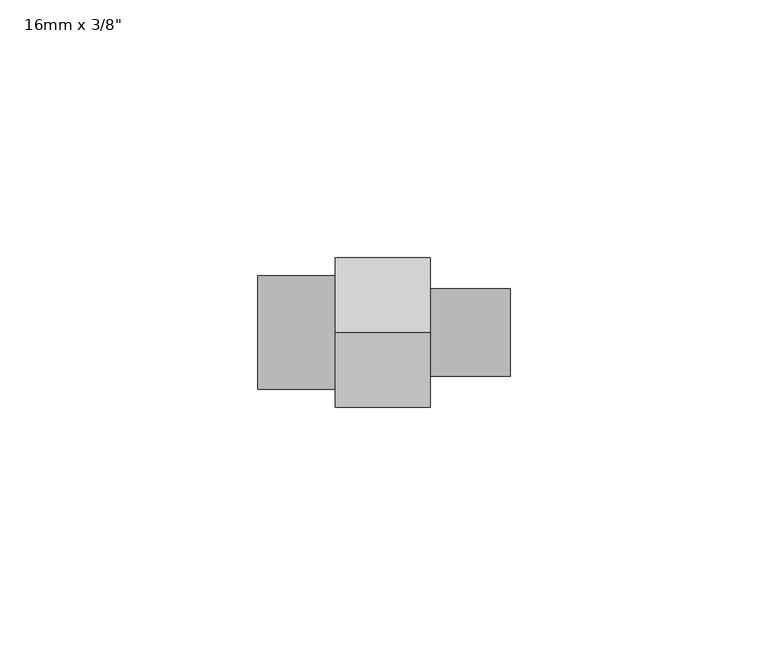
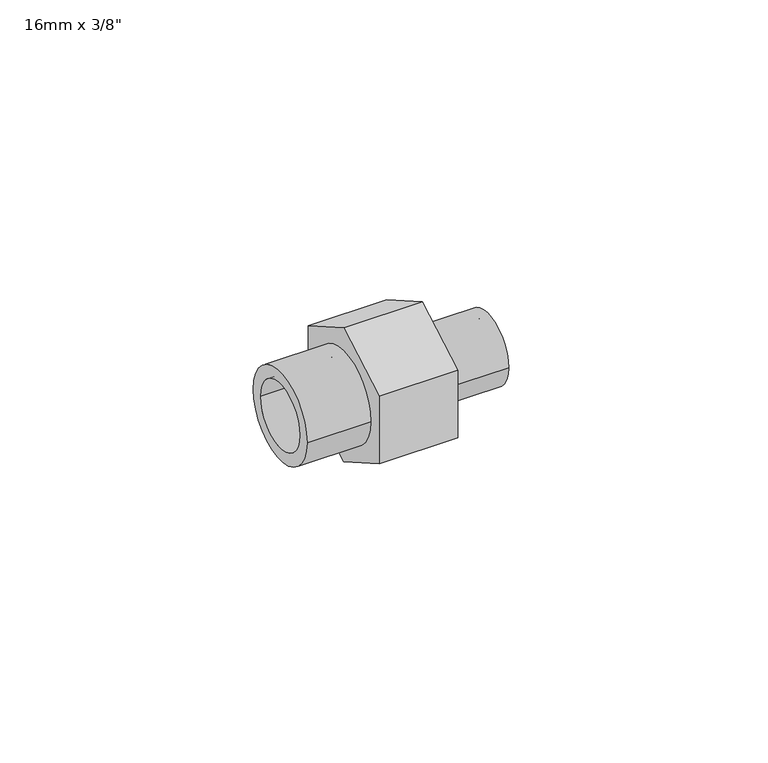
"""IFC4 building model written with IfcOpenShell, lengths in millimetres: pipe fitting geometry."""

from ifc_helpers import new_model, si_unit, point, frame, origin, origin_2d, place, context, project, spatial, polyline, circle_curve, trimmed, segment, composite_curve, outline, extrude, source, transform, mapped, element, save
from ifc_brep_helpers import plane_surface, cylinder_surface, revolved_surface, advanced_brep


def pipe_fitting_e1098114(model_context):
    return source(origin(), model_context, "Body", "SolidModel", [
        extrude(outline(composite_curve([segment(trimmed(circle_curve(origin_2d(), 11.0), [point((-11.0, 0.0))], [point((11.0, 0.0))], False, "CARTESIAN"), True, "CONTINUOUS"), segment(trimmed(circle_curve(origin_2d(), 11.0), [point((11.0, 0.0))], [point((-11.0, 0.0))], False, "CARTESIAN"), True, "CONTINUOUS")], self_intersect=False), holes=[composite_curve([segment(trimmed(circle_curve(origin_2d(), 8.0), [point((-8.0, 0.0))], [point((8.0, 0.0))], True, "CARTESIAN"), True, "CONTINUOUS"), segment(trimmed(circle_curve(origin_2d(), 8.0), [point((8.0, 0.0))], [point((-8.0, 0.0))], True, "CARTESIAN"), True, "CONTINUOUS")], self_intersect=False)]), frame((-7.5, 0.0, 0.0), z_axis=(1.0, 0.0, 0.0), x_axis=(0.0, 1.0, 0.0)), (0.0, 0.0, 1.0), 15.0),
        advanced_brep(
        [(41.5, -8.5, 0.0), (41.5, 8.5, 0.0), (41.5, 6.0, 0.0), (41.5, -6.0, 0.0), (26.0, 8.5, 0.0), (26.0, -8.5, 0.0), (7.5, 0.0, 16.7431578), (7.5, 14.5, 8.3715789), (7.5, 14.5, -8.3715789), (7.5, 0.0, -16.7431578), (7.5, -14.5, -8.3715789), (7.5, -14.5, 8.3715789), (7.5, -6.0, 0.0), (7.5, 6.0, 0.0), (26.0, 0.0, 16.7431578), (26.0, -14.5, 8.3715789), (26.0, -14.5, -8.3715789), (26.0, 0.0, -16.7431578), (26.0, 14.5, -8.3715789), (26.0, 14.5, 8.3715789)],
        [
            (0, 1, circle_curve(frame((41.5, 0.0, 0.0), z_axis=(1.0, 0.0, 0.0), x_axis=(0.0, 1.0, 0.0)), 8.5)),
            (1, 0, circle_curve(frame((41.5, 0.0, 0.0), z_axis=(1.0, 0.0, 0.0), x_axis=(0.0, 1.0, 0.0)), 8.5)),
            (2, 3, circle_curve(frame((41.5, 0.0, 0.0), z_axis=(-1.0, 0.0, 0.0), x_axis=(0.0, -1.0, 0.0)), 6.0)),
            (3, 2, circle_curve(frame((41.5, 0.0, 0.0), z_axis=(-1.0, 0.0, 0.0), x_axis=(0.0, -1.0, 0.0)), 6.0)),
            (1, 4),
            (4, 5, circle_curve(frame((26.0, 0.0, 0.0), z_axis=(1.0, 0.0, 0.0), x_axis=(0.0, 1.0, 0.0)), 8.5)),
            (5, 0),
            (5, 4, circle_curve(frame((26.0, 0.0, 0.0), z_axis=(1.0, 0.0, 0.0), x_axis=(0.0, 1.0, 0.0)), 8.5)),
            (6, 7),
            (7, 8),
            (8, 9),
            (9, 10),
            (10, 11),
            (11, 6),
            (12, 13, circle_curve(frame((7.5, 0.0, 0.0), z_axis=(1.0, 0.0, 0.0), x_axis=(0.0, -1.0, 0.0)), 6.0)),
            (13, 12, circle_curve(frame((7.5, 0.0, 0.0), z_axis=(1.0, 0.0, 0.0), x_axis=(0.0, -1.0, 0.0)), 6.0)),
            (14, 15),
            (15, 16),
            (16, 17),
            (17, 18),
            (18, 19),
            (19, 14),
            (6, 14),
            (19, 7),
            (18, 8),
            (17, 9),
            (16, 10),
            (15, 11),
            (12, 3),
            (2, 13),
        ],
        [
            plane_surface(frame((41.5, 0.0, 0.0), z_axis=(1.0, 0.0, 0.0), x_axis=(0.0, 0.0, 1.0))),
            cylinder_surface(frame((26.0, 0.0, 0.0), z_axis=(-1.0, 0.0, 0.0), x_axis=(0.0, 1.0, 0.0)), 8.5),
            plane_surface(frame((7.5, 0.0, 0.0), z_axis=(-1.0, 0.0, 0.0), x_axis=(0.0, 0.0, 1.0))),
            plane_surface(frame((26.0, 0.0, 0.0), z_axis=(1.0, 0.0, 0.0), x_axis=(0.0, 0.0, 1.0))),
            plane_surface(frame((7.5, 0.0, 16.7431578), z_axis=(0.0, 0.49999999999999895, 0.8660254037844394), x_axis=(1.0, 0.0, 0.0))),
            plane_surface(frame((7.5, 14.5, 8.3715789), z_axis=(0.0, 1.0, 0.0), x_axis=(1.0, 0.0, 0.0))),
            plane_surface(frame((7.5, 14.5, -8.3715789), z_axis=(0.0, 0.4999999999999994, -0.866025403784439), x_axis=(1.0, 0.0, 0.0))),
            plane_surface(frame((7.5, 0.0, -16.7431578), z_axis=(0.0, -0.49999999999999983, -0.8660254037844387), x_axis=(1.0, 0.0, 0.0))),
            plane_surface(frame((7.5, -14.5, -8.3715789), z_axis=(0.0, -1.0, 0.0), x_axis=(1.0, 0.0, 0.0))),
            plane_surface(frame((7.5, -14.5, 8.3715789), z_axis=(0.0, -0.4999999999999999, 0.8660254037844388), x_axis=(1.0, 0.0, 0.0))),
            revolved_surface(polyline([(7.5, -6.0, 0.0), (41.5, -6.0, 0.0)]), (41.5, 0.0, 0.0), (-1.0, 0.0, 0.0)),
        ],
        [
            (0, [[1, 2], [3, 4]]),
            (1, [[-2, 5, 6, 7]]),
            (1, [[-1, -7, 8, -5]]),
            (2, [[9, 10, 11, 12, 13, 14], [15, 16]]),
            (3, [[17, 18, 19, 20, 21, 22], [-6, -8]]),
            (4, [[-9, 23, -22, 24]]),
            (5, [[-10, -24, -21, 25]]),
            (6, [[-11, -25, -20, 26]]),
            (7, [[-12, -26, -19, 27]]),
            (8, [[-13, -27, -18, 28]]),
            (9, [[-14, -28, -17, -23]]),
            (10, [[29, -3, 30, -15]]),
            (10, [[-29, -16, -30, -4]]),
        ],
    ),
    ])


if __name__ == "__main__":
    model = new_model("IFC4")
    model_context = context("Model", 3, world=origin())
    ifc_project = project(units=[si_unit("LENGTHUNIT", "METRE", prefix="MILLI")], contexts=[model_context])
    site = spatial("IfcSite", under=ifc_project)
    building = spatial("IfcBuilding", under=site)
    placement = place(None, origin())
    pipe_fitting_shape = pipe_fitting_e1098114(model_context)
    element("IfcPipeFitting", 1, ObjectType="PipeFitting_HTA_CPVC_Male3PieceUnions_(CPVC-Brass) : 16mm x 3/8\"", at=placement, inside=building, context=model_context, shape_type="MappedRepresentation", body=[
        mapped(pipe_fitting_shape, transform((0.0, 0.0, 0.0), x_axis=(1.0, 0.0, 0.0), y_axis=(0.0, 1.0, 0.0), z_axis=(0.0, 0.0, 1.0))),
    ])
    save(model, "model.ifc")
